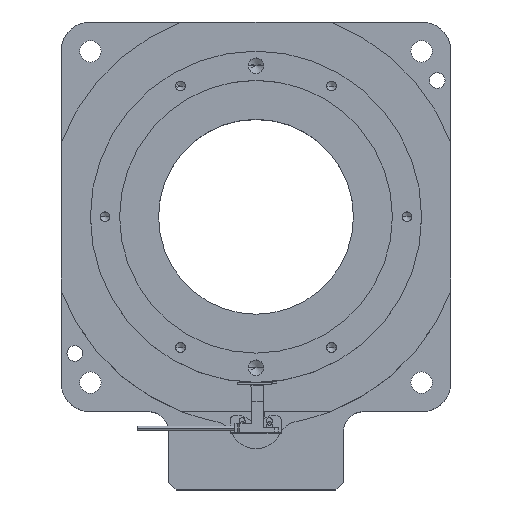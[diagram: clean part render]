
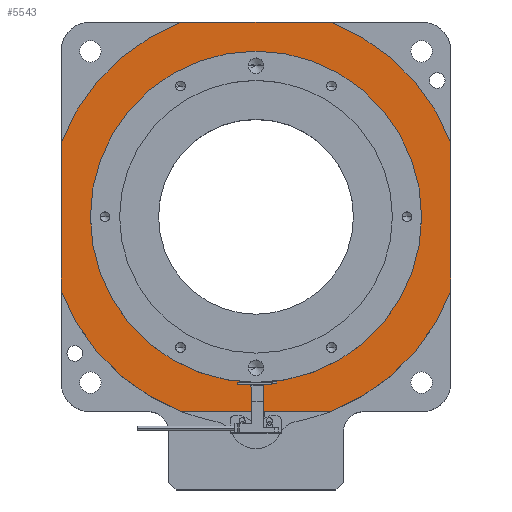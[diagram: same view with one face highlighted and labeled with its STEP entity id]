
A CAD part, top view. The second image highlights one B-rep face of the part: STEP entity #5543.
In plain terms, the highlighted planar face has unit normal (0, 0, 1).
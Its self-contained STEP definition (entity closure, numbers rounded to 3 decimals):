
#51 = CARTESIAN_POINT ( 'NONE',  ( 72.576, 16.452, 37.6 ) ) ;
#225 = DIRECTION ( 'NONE',  ( 0., 1., 0. ) ) ;
#285 = ORIENTED_EDGE ( 'NONE', *, *, #6242, .T. ) ;
#405 = DIRECTION ( 'NONE',  ( 1., 0., 0. ) ) ;
#503 = EDGE_CURVE ( 'NONE', #6661, #1331, #4868, .T. ) ;
#623 = PLANE ( 'NONE',  #6709 ) ;
#683 = VERTEX_POINT ( 'NONE', #4046 ) ;
#689 = EDGE_CURVE ( 'NONE', #683, #5276, #3309, .T. ) ;
#967 = CARTESIAN_POINT ( 'NONE',  ( -76.276, -83.548, 37.6 ) ) ;
#1006 = VERTEX_POINT ( 'NONE', #2509 ) ;
#1009 = CARTESIAN_POINT ( 'NONE',  ( -12.424, 16.452, 37.6 ) ) ;
#1012 = DIRECTION ( 'NONE',  ( 1., 0., 0. ) ) ;
#1331 = VERTEX_POINT ( 'NONE', #6615 ) ;
#1487 = AXIS2_PLACEMENT_3D ( 'NONE', #4335, #3684, #6688 ) ;
#1507 = VERTEX_POINT ( 'NONE', #7055 ) ;
#1525 = EDGE_CURVE ( 'NONE', #5276, #6642, #2013, .T. ) ;
#1619 = DIRECTION ( 'NONE',  ( -1., 0., 0. ) ) ;
#1759 = FACE_OUTER_BOUND ( 'NONE', #5553, .T. ) ;
#1875 = CIRCLE ( 'NONE', #5677, 107. ) ;
#1917 = ORIENTED_EDGE ( 'NONE', *, *, #2528, .F. ) ;
#1983 = VERTEX_POINT ( 'NONE', #51 ) ;
#1990 = DIRECTION ( 'NONE',  ( 1., 0., 0. ) ) ;
#2013 = LINE ( 'NONE', #7576, #2089 ) ;
#2089 = VECTOR ( 'NONE', #225, 1000. ) ;
#2093 = EDGE_CURVE ( 'NONE', #1006, #1983, #2858, .T. ) ;
#2139 = AXIS2_PLACEMENT_3D ( 'NONE', #7072, #3265, #1990 ) ;
#2272 = CARTESIAN_POINT ( 'NONE',  ( -97.424, 116.452, 37.6 ) ) ;
#2309 = AXIS2_PLACEMENT_3D ( 'NONE', #6029, #3477, #4095 ) ;
#2345 = CARTESIAN_POINT ( 'NONE',  ( -12.424, -3.548, 37.6 ) ) ;
#2365 = DIRECTION ( 'NONE',  ( 0., -1., 0. ) ) ;
#2509 = CARTESIAN_POINT ( 'NONE',  ( -97.424, 16.452, 37.6 ) ) ;
#2528 = EDGE_CURVE ( 'NONE', #683, #5991, #4197, .T. ) ;
#2591 = AXIS2_PLACEMENT_3D ( 'NONE', #5288, #4664, #4627 ) ;
#2598 = EDGE_LOOP ( 'NONE', ( #5470, #5633 ) ) ;
#2729 = VERTEX_POINT ( 'NONE', #7374 ) ;
#2858 = CIRCLE ( 'NONE', #2591, 85. ) ;
#2991 = CARTESIAN_POINT ( 'NONE',  ( -50.49, -83.548, 37.6 ) ) ;
#3265 = DIRECTION ( 'NONE',  ( 0., 0., 1. ) ) ;
#3309 = CIRCLE ( 'NONE', #2139, 107. ) ;
#3477 = DIRECTION ( 'NONE',  ( 0., 0., 1. ) ) ;
#3488 = CARTESIAN_POINT ( 'NONE',  ( -112.424, 54.518, 37.6 ) ) ;
#3513 = ORIENTED_EDGE ( 'NONE', *, *, #4933, .T. ) ;
#3684 = DIRECTION ( 'NONE',  ( 0., 0., 1. ) ) ;
#3748 = CIRCLE ( 'NONE', #5071, 107. ) ;
#3858 = CARTESIAN_POINT ( 'NONE',  ( 87.576, -21.614, 37.6 ) ) ;
#4035 = DIRECTION ( 'NONE',  ( 0., 0., 1. ) ) ;
#4046 = CARTESIAN_POINT ( 'NONE',  ( 25.641, -83.548, 37.6 ) ) ;
#4095 = DIRECTION ( 'NONE',  ( 1., 0., 0. ) ) ;
#4123 = ORIENTED_EDGE ( 'NONE', *, *, #6180, .T. ) ;
#4197 = LINE ( 'NONE', #967, #6407 ) ;
#4219 = DIRECTION ( 'NONE',  ( 0., 0., 1. ) ) ;
#4335 = CARTESIAN_POINT ( 'NONE',  ( -12.424, 16.452, 37.6 ) ) ;
#4627 = DIRECTION ( 'NONE',  ( 1., 0., 0. ) ) ;
#4664 = DIRECTION ( 'NONE',  ( 0., 0., 1. ) ) ;
#4804 = DIRECTION ( 'NONE',  ( 1., 0., 0. ) ) ;
#4868 = LINE ( 'NONE', #7967, #5935 ) ;
#4933 = EDGE_CURVE ( 'NONE', #6642, #1507, #1875, .T. ) ;
#5071 = AXIS2_PLACEMENT_3D ( 'NONE', #7257, #5431, #1012 ) ;
#5145 = CIRCLE ( 'NONE', #1487, 107. ) ;
#5276 = VERTEX_POINT ( 'NONE', #3858 ) ;
#5288 = CARTESIAN_POINT ( 'NONE',  ( -12.424, 16.452, 37.6 ) ) ;
#5431 = DIRECTION ( 'NONE',  ( 0., 0., 1. ) ) ;
#5470 = ORIENTED_EDGE ( 'NONE', *, *, #7037, .F. ) ;
#5487 = EDGE_CURVE ( 'NONE', #2729, #6661, #5145, .T. ) ;
#5543 = ADVANCED_FACE ( 'NONE', ( #6076, #1759 ), #623, .T. ) ;
#5553 = EDGE_LOOP ( 'NONE', ( #1917, #7708, #7647, #3513, #285, #7993, #6933, #4123 ) ) ;
#5633 = ORIENTED_EDGE ( 'NONE', *, *, #2093, .F. ) ;
#5677 = AXIS2_PLACEMENT_3D ( 'NONE', #1009, #4035, #405 ) ;
#5859 = VECTOR ( 'NONE', #1619, 1000. ) ;
#5877 = CARTESIAN_POINT ( 'NONE',  ( 87.576, 54.518, 37.6 ) ) ;
#5935 = VECTOR ( 'NONE', #2365, 1000. ) ;
#5991 = VERTEX_POINT ( 'NONE', #2991 ) ;
#6029 = CARTESIAN_POINT ( 'NONE',  ( -12.424, 16.452, 37.6 ) ) ;
#6076 = FACE_BOUND ( 'NONE', #2598, .T. ) ;
#6180 = EDGE_CURVE ( 'NONE', #1331, #5991, #3748, .T. ) ;
#6242 = EDGE_CURVE ( 'NONE', #1507, #2729, #7218, .T. ) ;
#6373 = CIRCLE ( 'NONE', #2309, 85. ) ;
#6407 = VECTOR ( 'NONE', #7340, 1000. ) ;
#6615 = CARTESIAN_POINT ( 'NONE',  ( -112.424, -21.614, 37.6 ) ) ;
#6642 = VERTEX_POINT ( 'NONE', #5877 ) ;
#6661 = VERTEX_POINT ( 'NONE', #3488 ) ;
#6688 = DIRECTION ( 'NONE',  ( 1., 0., 0. ) ) ;
#6709 = AXIS2_PLACEMENT_3D ( 'NONE', #2345, #4219, #4804 ) ;
#6933 = ORIENTED_EDGE ( 'NONE', *, *, #503, .T. ) ;
#7037 = EDGE_CURVE ( 'NONE', #1983, #1006, #6373, .T. ) ;
#7055 = CARTESIAN_POINT ( 'NONE',  ( 25.641, 116.452, 37.6 ) ) ;
#7072 = CARTESIAN_POINT ( 'NONE',  ( -12.424, 16.452, 37.6 ) ) ;
#7218 = LINE ( 'NONE', #2272, #5859 ) ;
#7257 = CARTESIAN_POINT ( 'NONE',  ( -12.424, 16.452, 37.6 ) ) ;
#7340 = DIRECTION ( 'NONE',  ( -1., 0., 0. ) ) ;
#7374 = CARTESIAN_POINT ( 'NONE',  ( -50.49, 116.452, 37.6 ) ) ;
#7576 = CARTESIAN_POINT ( 'NONE',  ( 87.576, 101.452, 37.6 ) ) ;
#7647 = ORIENTED_EDGE ( 'NONE', *, *, #1525, .T. ) ;
#7708 = ORIENTED_EDGE ( 'NONE', *, *, #689, .T. ) ;
#7967 = CARTESIAN_POINT ( 'NONE',  ( -112.424, 101.452, 37.6 ) ) ;
#7993 = ORIENTED_EDGE ( 'NONE', *, *, #5487, .T. ) ;
